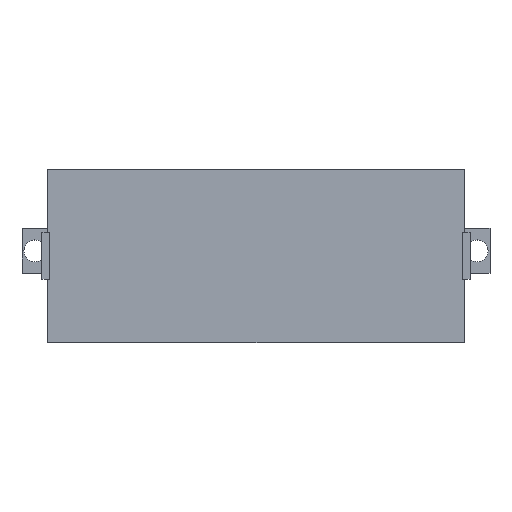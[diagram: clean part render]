
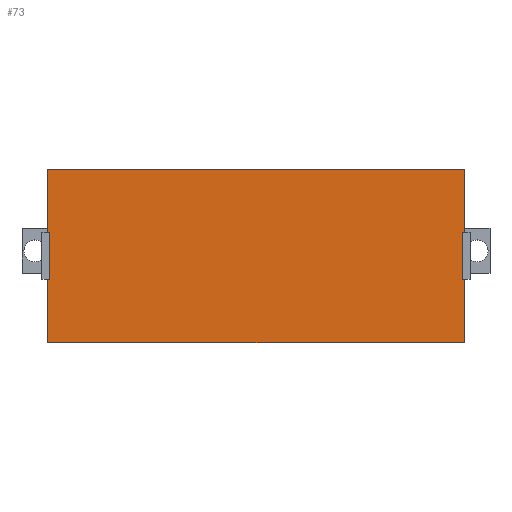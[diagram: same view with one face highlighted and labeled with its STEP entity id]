
A CAD part, top view. The second image highlights one B-rep face of the part: STEP entity #73.
In plain terms, the highlighted planar face has unit normal (0, 0, 1).
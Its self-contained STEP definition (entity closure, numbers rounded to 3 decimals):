
#21 = EDGE_CURVE('',#22,#24,#26,.T.);
#22 = VERTEX_POINT('',#23);
#23 = CARTESIAN_POINT('',(-32.6,-30.8,35.7));
#24 = VERTEX_POINT('',#25);
#25 = CARTESIAN_POINT('',(-32.6,-20.84,35.7));
#26 = LINE('',#27,#28);
#27 = CARTESIAN_POINT('',(-32.6,-30.8,35.7));
#28 = VECTOR('',#29,1.);
#29 = DIRECTION('',(-0.,1.,0.));
#73 = ADVANCED_FACE('',(#74),#179,.T.);
#74 = FACE_BOUND('',#75,.T.);
#75 = EDGE_LOOP('',(#76,#77,#85,#93,#101,#109,#117,#125,#133,#141,#149,
    #157,#165,#173));
#76 = ORIENTED_EDGE('',*,*,#21,.F.);
#77 = ORIENTED_EDGE('',*,*,#78,.T.);
#78 = EDGE_CURVE('',#22,#79,#81,.T.);
#79 = VERTEX_POINT('',#80);
#80 = CARTESIAN_POINT('',(32.6,-30.8,35.7));
#81 = LINE('',#82,#83);
#82 = CARTESIAN_POINT('',(-32.6,-30.8,35.7));
#83 = VECTOR('',#84,1.);
#84 = DIRECTION('',(1.,0.,-0.));
#85 = ORIENTED_EDGE('',*,*,#86,.T.);
#86 = EDGE_CURVE('',#79,#87,#89,.T.);
#87 = VERTEX_POINT('',#88);
#88 = CARTESIAN_POINT('',(32.6,-20.84,35.7));
#89 = LINE('',#90,#91);
#90 = CARTESIAN_POINT('',(32.6,-30.8,35.7));
#91 = VECTOR('',#92,1.);
#92 = DIRECTION('',(-0.,1.,0.));
#93 = ORIENTED_EDGE('',*,*,#94,.T.);
#94 = EDGE_CURVE('',#87,#95,#97,.T.);
#95 = VERTEX_POINT('',#96);
#96 = CARTESIAN_POINT('',(32.3,-20.84,35.7));
#97 = LINE('',#98,#99);
#98 = CARTESIAN_POINT('',(-0.15,-20.84,35.7));
#99 = VECTOR('',#100,1.);
#100 = DIRECTION('',(-1.,-0.,0.));
#101 = ORIENTED_EDGE('',*,*,#102,.T.);
#102 = EDGE_CURVE('',#95,#103,#105,.T.);
#103 = VERTEX_POINT('',#104);
#104 = CARTESIAN_POINT('',(32.3,-13.56,35.7));
#105 = LINE('',#106,#107);
#106 = CARTESIAN_POINT('',(32.3,-25.82,35.7));
#107 = VECTOR('',#108,1.);
#108 = DIRECTION('',(-0.,1.,0.));
#109 = ORIENTED_EDGE('',*,*,#110,.F.);
#110 = EDGE_CURVE('',#111,#103,#113,.T.);
#111 = VERTEX_POINT('',#112);
#112 = CARTESIAN_POINT('',(32.6,-13.56,35.7));
#113 = LINE('',#114,#115);
#114 = CARTESIAN_POINT('',(-0.15,-13.56,35.7));
#115 = VECTOR('',#116,1.);
#116 = DIRECTION('',(-1.,-0.,0.));
#117 = ORIENTED_EDGE('',*,*,#118,.T.);
#118 = EDGE_CURVE('',#111,#119,#121,.T.);
#119 = VERTEX_POINT('',#120);
#120 = CARTESIAN_POINT('',(32.6,-12.9,35.7));
#121 = LINE('',#122,#123);
#122 = CARTESIAN_POINT('',(32.6,-30.8,35.7));
#123 = VECTOR('',#124,1.);
#124 = DIRECTION('',(-0.,1.,0.));
#125 = ORIENTED_EDGE('',*,*,#126,.T.);
#126 = EDGE_CURVE('',#119,#127,#129,.T.);
#127 = VERTEX_POINT('',#128);
#128 = CARTESIAN_POINT('',(32.6,-3.6,35.7));
#129 = LINE('',#130,#131);
#130 = CARTESIAN_POINT('',(32.6,-30.8,35.7));
#131 = VECTOR('',#132,1.);
#132 = DIRECTION('',(-0.,1.,0.));
#133 = ORIENTED_EDGE('',*,*,#134,.F.);
#134 = EDGE_CURVE('',#135,#127,#137,.T.);
#135 = VERTEX_POINT('',#136);
#136 = CARTESIAN_POINT('',(-32.6,-3.6,35.7));
#137 = LINE('',#138,#139);
#138 = CARTESIAN_POINT('',(-32.6,-3.6,35.7));
#139 = VECTOR('',#140,1.);
#140 = DIRECTION('',(1.,0.,-0.));
#141 = ORIENTED_EDGE('',*,*,#142,.F.);
#142 = EDGE_CURVE('',#143,#135,#145,.T.);
#143 = VERTEX_POINT('',#144);
#144 = CARTESIAN_POINT('',(-32.6,-12.9,35.7));
#145 = LINE('',#146,#147);
#146 = CARTESIAN_POINT('',(-32.6,-30.8,35.7));
#147 = VECTOR('',#148,1.);
#148 = DIRECTION('',(-0.,1.,0.));
#149 = ORIENTED_EDGE('',*,*,#150,.F.);
#150 = EDGE_CURVE('',#151,#143,#153,.T.);
#151 = VERTEX_POINT('',#152);
#152 = CARTESIAN_POINT('',(-32.6,-13.56,35.7));
#153 = LINE('',#154,#155);
#154 = CARTESIAN_POINT('',(-32.6,-30.8,35.7));
#155 = VECTOR('',#156,1.);
#156 = DIRECTION('',(-0.,1.,0.));
#157 = ORIENTED_EDGE('',*,*,#158,.F.);
#158 = EDGE_CURVE('',#159,#151,#161,.T.);
#159 = VERTEX_POINT('',#160);
#160 = CARTESIAN_POINT('',(-32.3,-13.56,35.7));
#161 = LINE('',#162,#163);
#162 = CARTESIAN_POINT('',(-33.05,-13.56,35.7));
#163 = VECTOR('',#164,1.);
#164 = DIRECTION('',(-1.,-0.,0.));
#165 = ORIENTED_EDGE('',*,*,#166,.F.);
#166 = EDGE_CURVE('',#167,#159,#169,.T.);
#167 = VERTEX_POINT('',#168);
#168 = CARTESIAN_POINT('',(-32.3,-20.84,35.7));
#169 = LINE('',#170,#171);
#170 = CARTESIAN_POINT('',(-32.3,-25.82,35.7));
#171 = VECTOR('',#172,1.);
#172 = DIRECTION('',(-0.,1.,0.));
#173 = ORIENTED_EDGE('',*,*,#174,.T.);
#174 = EDGE_CURVE('',#167,#24,#175,.T.);
#175 = LINE('',#176,#177);
#176 = CARTESIAN_POINT('',(-33.05,-20.84,35.7));
#177 = VECTOR('',#178,1.);
#178 = DIRECTION('',(-1.,-0.,0.));
#179 = PLANE('',#180);
#180 = AXIS2_PLACEMENT_3D('',#181,#182,#183);
#181 = CARTESIAN_POINT('',(-32.6,-30.8,35.7));
#182 = DIRECTION('',(0.,0.,1.));
#183 = DIRECTION('',(1.,0.,-0.));
